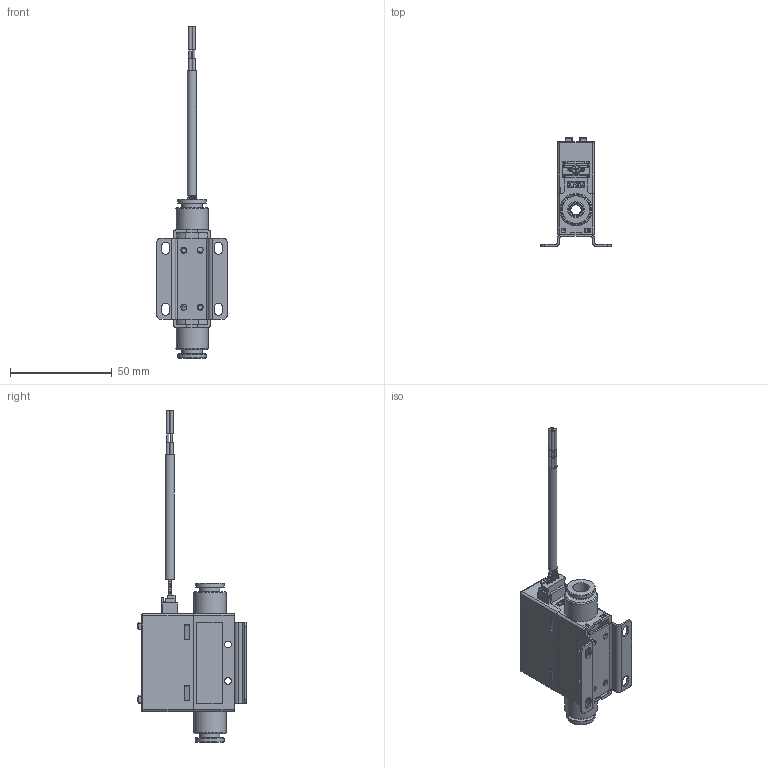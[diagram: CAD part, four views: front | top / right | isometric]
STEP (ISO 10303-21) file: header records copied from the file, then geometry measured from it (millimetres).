
FILE_DESCRIPTION( (''), '2;1');
FILE_NAME( 'QGKK_200L_R8_push-in.step', '2023-06-20T10:00:23+08:00', (''), (''), '', '', '');
FILE_SCHEMA (('CONFIG_CONTROL_DESIGN'));
Length unit declared in the file: millimetre
Products named in the file (1): QGKK 200L_R8_push-in
Bounding box: 34.6 x 53.5 x 163.3 mm (x, y, z)
Volume: 31680 mm3; surface area: 25523.9 mm2
Topology: 4 solids, 6 shells, 921 faces, 2497 edges, 1639 vertices
Faces by surface type: plane 599, cylinder 174, torus 80, extrusion 38, cone 21, bspline 6, sphere 3
Full cylindrical faces by diameter (mm): 1 x4, 1.5 x8, 2.2 x2, 3 x4, 3.3 x4, 4.5 x1, 5 x1, 6 x2, 8 x2, 10 x4, 14 x4, 16 x2
Entity records: 30108 total; most frequent: CARTESIAN_POINT 7209, ORIENTED_EDGE 4810, DIRECTION 4445, EDGE_CURVE 2405, VECTOR 1643, VERTEX_POINT 1618, LINE 1605, AXIS2_PLACEMENT_3D 1401
